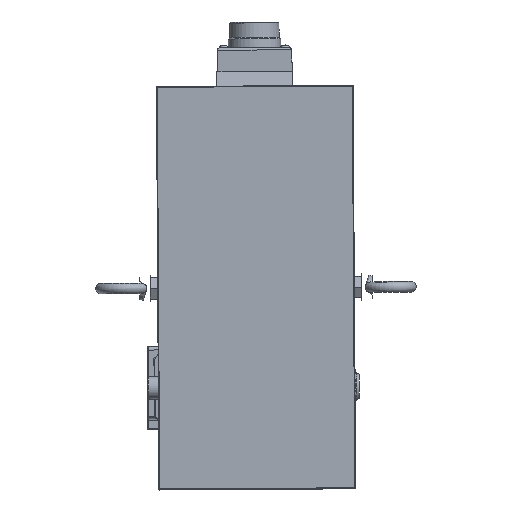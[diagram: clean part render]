
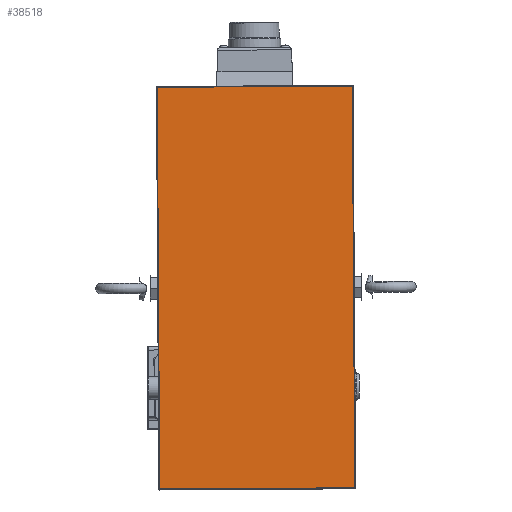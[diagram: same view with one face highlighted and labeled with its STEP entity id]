
A CAD part, top view. The second image highlights one B-rep face of the part: STEP entity #38518.
In plain terms, the highlighted planar face has unit normal (0, 0, 1).
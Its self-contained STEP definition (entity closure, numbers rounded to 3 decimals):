
#1663=PLANE('',#41286);
#5181=FACE_OUTER_BOUND('',#7374,.T.);
#7374=EDGE_LOOP('',(#30257,#30258,#30259,#30260));
#12280=LINE('',#70216,#15104);
#12283=LINE('',#70224,#15107);
#12285=LINE('',#70227,#15109);
#12289=LINE('',#70233,#15113);
#15104=VECTOR('',#48173,10.);
#15107=VECTOR('',#48182,10.);
#15109=VECTOR('',#48186,10.);
#15113=VECTOR('',#48194,10.);
#18176=VERTEX_POINT('',#70191);
#18177=VERTEX_POINT('',#70195);
#18181=VERTEX_POINT('',#70204);
#18183=VERTEX_POINT('',#70209);
#22650=EDGE_CURVE('',#18183,#18181,#12280,.T.);
#22654=EDGE_CURVE('',#18177,#18183,#12283,.T.);
#22656=EDGE_CURVE('',#18181,#18176,#12285,.T.);
#22660=EDGE_CURVE('',#18176,#18177,#12289,.T.);
#30257=ORIENTED_EDGE('',*,*,#22650,.F.);
#30258=ORIENTED_EDGE('',*,*,#22654,.F.);
#30259=ORIENTED_EDGE('',*,*,#22660,.F.);
#30260=ORIENTED_EDGE('',*,*,#22656,.F.);
#38518=ADVANCED_FACE('',(#5181),#1663,.T.);
#41286=AXIS2_PLACEMENT_3D('',#70244,#48209,#48210);
#48173=DIRECTION('',(-0.006,1.,0.));
#48182=DIRECTION('',(-1.,-0.006,0.));
#48186=DIRECTION('',(1.,0.006,0.));
#48194=DIRECTION('',(0.006,-1.,0.));
#48209=DIRECTION('center_axis',(0.,0.,
1.));
#48210=DIRECTION('ref_axis',(0.006,-1.,0.));
#70191=CARTESIAN_POINT('',(57.886,181.858,473.));
#70195=CARTESIAN_POINT('',(59.376,-61.137,473.));
#70204=CARTESIAN_POINT('',(-60.112,181.135,473.));
#70209=CARTESIAN_POINT('',(-58.622,-61.861,473.));
#70216=CARTESIAN_POINT('',(-58.631,-60.361,473.));
#70224=CARTESIAN_POINT('',(29.127,-61.322,473.));
#70227=CARTESIAN_POINT('',(27.636,181.673,473.));
#70233=CARTESIAN_POINT('',(59.367,-59.637,473.));
#70244=CARTESIAN_POINT('Origin',(57.867,-59.646,473.));
